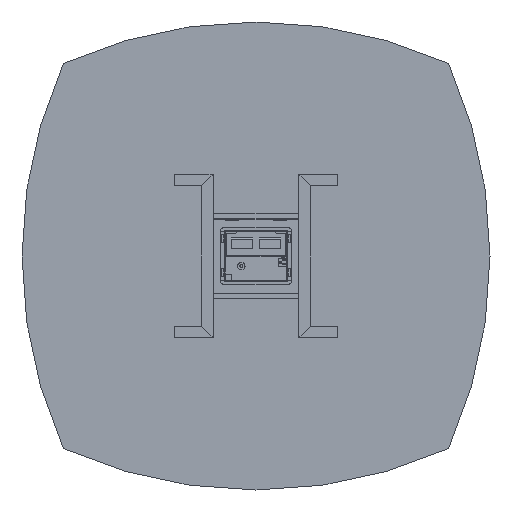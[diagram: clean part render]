
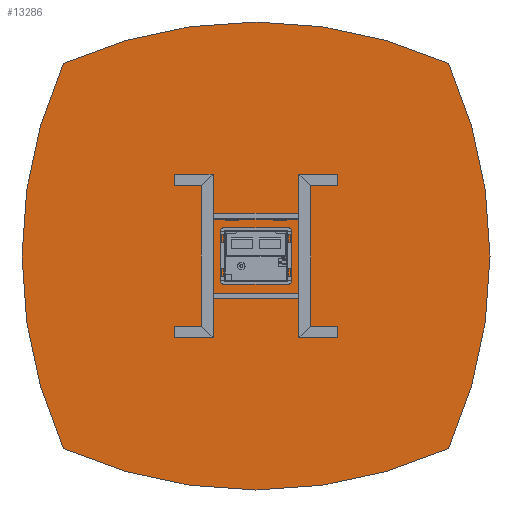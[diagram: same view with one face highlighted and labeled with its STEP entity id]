
A CAD part, front view. The second image highlights one B-rep face of the part: STEP entity #13286.
In plain terms, the highlighted planar face has unit normal (0, -1, 0).
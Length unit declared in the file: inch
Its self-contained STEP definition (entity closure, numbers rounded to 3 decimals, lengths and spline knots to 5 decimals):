
#412=FACE_BOUND('',#2782,.T.);
#465=CIRCLE('',#14434,60.);
#467=CIRCLE('',#14437,60.);
#469=CIRCLE('',#14440,60.);
#471=CIRCLE('',#14443,60.);
#2101=FACE_OUTER_BOUND('',#2781,.T.);
#2781=EDGE_LOOP('',(#9405,#9406,#9407,#9408));
#2782=EDGE_LOOP('',(#9409,#9410,#9411,#9412));
#3554=LINE('',#19746,#4890);
#3558=LINE('',#19754,#4894);
#3561=LINE('',#19760,#4897);
#3564=LINE('',#19765,#4900);
#4890=VECTOR('',#15864,0.3937);
#4894=VECTOR('',#15870,0.3937);
#4897=VECTOR('',#15875,0.3937);
#4900=VECTOR('',#15880,0.3937);
#6192=VERTEX_POINT('',#19744);
#6193=VERTEX_POINT('',#19745);
#6196=VERTEX_POINT('',#19753);
#6198=VERTEX_POINT('',#19759);
#6200=VERTEX_POINT('',#19768);
#6201=VERTEX_POINT('',#19769);
#6204=VERTEX_POINT('',#19777);
#6206=VERTEX_POINT('',#19783);
#7418=EDGE_CURVE('',#6192,#6193,#3554,.T.);
#7422=EDGE_CURVE('',#6193,#6196,#3558,.T.);
#7425=EDGE_CURVE('',#6196,#6198,#3561,.T.);
#7428=EDGE_CURVE('',#6198,#6192,#3564,.T.);
#7430=EDGE_CURVE('',#6200,#6201,#465,.T.);
#7434=EDGE_CURVE('',#6204,#6200,#467,.T.);
#7437=EDGE_CURVE('',#6206,#6204,#469,.T.);
#7440=EDGE_CURVE('',#6201,#6206,#471,.T.);
#9405=ORIENTED_EDGE('',*,*,#7440,.F.);
#9406=ORIENTED_EDGE('',*,*,#7430,.F.);
#9407=ORIENTED_EDGE('',*,*,#7434,.F.);
#9408=ORIENTED_EDGE('',*,*,#7437,.F.);
#9409=ORIENTED_EDGE('',*,*,#7425,.T.);
#9410=ORIENTED_EDGE('',*,*,#7428,.T.);
#9411=ORIENTED_EDGE('',*,*,#7418,.T.);
#9412=ORIENTED_EDGE('',*,*,#7422,.T.);
#12860=PLANE('',#14446);
#13286=ADVANCED_FACE('',(#2101,#412),#12860,.F.);
#14434=AXIS2_PLACEMENT_3D('',#19770,#15884,#15885);
#14437=AXIS2_PLACEMENT_3D('',#19778,#15892,#15893);
#14440=AXIS2_PLACEMENT_3D('',#19784,#15899,#15900);
#14443=AXIS2_PLACEMENT_3D('',#19789,#15906,#15907);
#14446=AXIS2_PLACEMENT_3D('',#19792,#15912,#15913);
#15864=DIRECTION('',(0.,0.,1.));
#15870=DIRECTION('',(1.,0.,0.));
#15875=DIRECTION('',(0.,0.,-1.));
#15880=DIRECTION('',(-1.,0.,0.));
#15884=DIRECTION('center_axis',(0.,1.,0.));
#15885=DIRECTION('ref_axis',(0.411,0.,-0.911));
#15892=DIRECTION('center_axis',(0.,1.,0.));
#15893=DIRECTION('ref_axis',(0.911,0.,0.411));
#15899=DIRECTION('center_axis',(0.,1.,0.));
#15900=DIRECTION('ref_axis',(-0.411,0.,0.911));
#15906=DIRECTION('center_axis',(0.,1.,0.));
#15907=DIRECTION('ref_axis',(-0.911,0.,-0.411));
#15912=DIRECTION('center_axis',(0.,1.,0.));
#15913=DIRECTION('ref_axis',(0.,0.,1.));
#19744=CARTESIAN_POINT('',(-3.9375,0.,-3.));
#19745=CARTESIAN_POINT('',(-3.9375,0.,3.));
#19746=CARTESIAN_POINT('',(-3.9375,0.,1.5));
#19753=CARTESIAN_POINT('',(3.9375,0.,3.));
#19754=CARTESIAN_POINT('',(1.96875,0.,3.));
#19759=CARTESIAN_POINT('',(3.9375,0.,-3.));
#19760=CARTESIAN_POINT('',(3.9375,0.,-1.5));
#19765=CARTESIAN_POINT('',(-1.96875,0.,-3.));
#19768=CARTESIAN_POINT('',(24.68627,0.,-24.68627));
#19769=CARTESIAN_POINT('',(-24.68627,0.,-24.68627));
#19770=CARTESIAN_POINT('Origin',(0.,0.,30.));
#19777=CARTESIAN_POINT('',(24.68627,0.,24.68627));
#19778=CARTESIAN_POINT('Origin',(-30.,0.,0.));
#19783=CARTESIAN_POINT('',(-24.68627,0.,24.68627));
#19784=CARTESIAN_POINT('Origin',(0.,0.,-30.));
#19789=CARTESIAN_POINT('Origin',(30.,0.,0.));
#19792=CARTESIAN_POINT('Origin',(0.,0.,0.));
